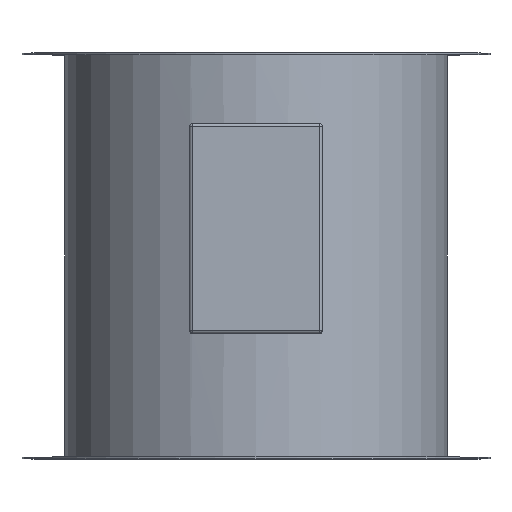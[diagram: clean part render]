
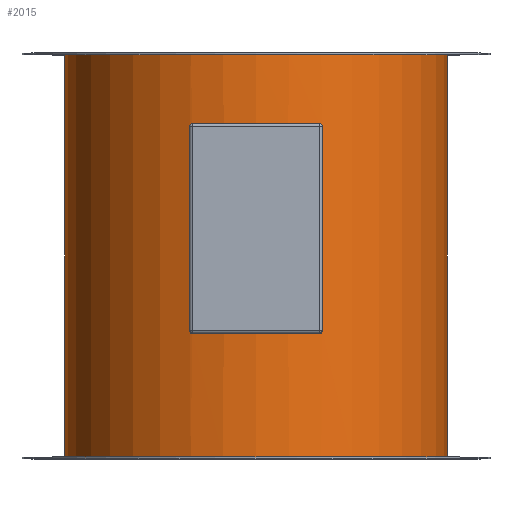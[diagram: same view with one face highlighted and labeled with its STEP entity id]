
A CAD part, top view. The second image highlights one B-rep face of the part: STEP entity #2015.
In plain terms, the highlighted cylindrical face has radius 141.25 mm (diameter 282.5 mm), a full revolution.
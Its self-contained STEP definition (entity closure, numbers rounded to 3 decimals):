
#19=FACE_BOUND('',#786,.T.);
#129=B_SPLINE_CURVE_WITH_KNOTS('',3,(#2786,#2787,#2788,#2789,#2790,#2791,
#2792,#2793,#2794,#2795),.UNSPECIFIED.,.F.,.F.,(4,2,2,2,4),(0.,0.075,
0.15,0.231,0.311),.UNSPECIFIED.);
#130=B_SPLINE_CURVE_WITH_KNOTS('',3,(#2824,#2825,#2826,#2827,#2828,#2829,
#2830,#2831,#2832,#2833),.UNSPECIFIED.,.F.,.F.,(4,2,2,2,4),(-0.311,
-0.232,-0.153,-0.076,0.),
 .UNSPECIFIED.);
#131=B_SPLINE_CURVE_WITH_KNOTS('',3,(#2839,#2840,#2841,#2842,#2843,#2844,
#2845,#2846,#2847,#2848),.UNSPECIFIED.,.F.,.F.,(4,2,2,2,4),(0.621,
0.697,0.774,0.853,0.932),
 .UNSPECIFIED.);
#132=B_SPLINE_CURVE_WITH_KNOTS('',3,(#2854,#2855,#2856,#2857,#2858,#2859,
#2860,#2861,#2862,#2863),.UNSPECIFIED.,.F.,.F.,(4,2,2,2,4),(0.31,
0.39,0.471,0.546,0.621),
 .UNSPECIFIED.);
#159=LINE('',#2867,#358);
#160=LINE('',#2872,#359);
#339=LINE('',#3431,#538);
#358=VECTOR('',#2284,10.);
#359=VECTOR('',#2293,10.);
#538=VECTOR('',#2740,140.);
#569=CYLINDRICAL_SURFACE('',#2203,141.25);
#673=FACE_OUTER_BOUND('',#785,.T.);
#785=EDGE_LOOP('',(#1842,#1843,#1844,#1845));
#786=EDGE_LOOP('',(#1846,#1847,#1848,#1849,#1850,#1851,#1852,#1853));
#841=CIRCLE('',#2068,141.25);
#842=CIRCLE('',#2072,141.25);
#889=CIRCLE('',#2204,141.25);
#890=CIRCLE('',#2205,141.25);
#901=VERTEX_POINT('',#2784);
#902=VERTEX_POINT('',#2785);
#909=VERTEX_POINT('',#2822);
#910=VERTEX_POINT('',#2823);
#911=VERTEX_POINT('',#2837);
#912=VERTEX_POINT('',#2838);
#913=VERTEX_POINT('',#2852);
#914=VERTEX_POINT('',#2853);
#1067=VERTEX_POINT('',#3428);
#1068=VERTEX_POINT('',#3430);
#1081=EDGE_CURVE('',#901,#902,#129,.F.);
#1096=EDGE_CURVE('',#909,#910,#130,.F.);
#1099=EDGE_CURVE('',#911,#912,#131,.F.);
#1102=EDGE_CURVE('',#913,#914,#132,.F.);
#1105=EDGE_CURVE('',#909,#902,#159,.T.);
#1106=EDGE_CURVE('',#901,#914,#841,.T.);
#1107=EDGE_CURVE('',#913,#912,#160,.T.);
#1108=EDGE_CURVE('',#911,#910,#842,.T.);
#1343=EDGE_CURVE('',#1067,#1067,#889,.T.);
#1344=EDGE_CURVE('',#1067,#1068,#339,.T.);
#1345=EDGE_CURVE('',#1068,#1068,#890,.F.);
#1842=ORIENTED_EDGE('',*,*,#1343,.T.);
#1843=ORIENTED_EDGE('',*,*,#1344,.T.);
#1844=ORIENTED_EDGE('',*,*,#1345,.T.);
#1845=ORIENTED_EDGE('',*,*,#1344,.F.);
#1846=ORIENTED_EDGE('',*,*,#1107,.T.);
#1847=ORIENTED_EDGE('',*,*,#1099,.F.);
#1848=ORIENTED_EDGE('',*,*,#1108,.T.);
#1849=ORIENTED_EDGE('',*,*,#1096,.F.);
#1850=ORIENTED_EDGE('',*,*,#1105,.T.);
#1851=ORIENTED_EDGE('',*,*,#1081,.F.);
#1852=ORIENTED_EDGE('',*,*,#1106,.T.);
#1853=ORIENTED_EDGE('',*,*,#1102,.F.);
#2015=ADVANCED_FACE('',(#673,#19),#569,.T.);
#2068=AXIS2_PLACEMENT_3D('',#2869,#2287,#2288);
#2072=AXIS2_PLACEMENT_3D('',#2874,#2296,#2297);
#2203=AXIS2_PLACEMENT_3D('',#3427,#2736,#2737);
#2204=AXIS2_PLACEMENT_3D('',#3429,#2738,#2739);
#2205=AXIS2_PLACEMENT_3D('',#3432,#2741,#2742);
#2284=DIRECTION('',(0.,1.,0.));
#2287=DIRECTION('center_axis',(0.,1.,0.));
#2288=DIRECTION('ref_axis',(1.,0.,0.));
#2293=DIRECTION('',(0.,-1.,0.));
#2296=DIRECTION('center_axis',(0.,-1.,0.));
#2297=DIRECTION('ref_axis',(1.,0.,0.));
#2736=DIRECTION('center_axis',(0.,1.,0.));
#2737=DIRECTION('ref_axis',(1.,0.,0.));
#2738=DIRECTION('center_axis',(0.,-1.,0.));
#2739=DIRECTION('ref_axis',(1.,0.,0.));
#2740=DIRECTION('',(0.,-1.,0.));
#2741=DIRECTION('center_axis',(0.,-1.,0.));
#2742=DIRECTION('ref_axis',(1.,0.,0.));
#2784=CARTESIAN_POINT('',(-47.,97.5,133.201));
#2785=CARTESIAN_POINT('',(-49.,95.5,132.479));
#2786=CARTESIAN_POINT('Ctrl Pts',(-49.,95.5,132.479));
#2787=CARTESIAN_POINT('Ctrl Pts',(-49.,95.75,132.479));
#2788=CARTESIAN_POINT('Ctrl Pts',(-48.95,96.016,132.497));
#2789=CARTESIAN_POINT('Ctrl Pts',(-48.75,96.503,132.571));
#2790=CARTESIAN_POINT('Ctrl Pts',(-48.601,96.723,132.626));
#2791=CARTESIAN_POINT('Ctrl Pts',(-48.25,97.083,132.754));
#2792=CARTESIAN_POINT('Ctrl Pts',(-48.021,97.241,132.837));
#2793=CARTESIAN_POINT('Ctrl Pts',(-47.522,97.449,133.016));
#2794=CARTESIAN_POINT('Ctrl Pts',(-47.252,97.5,133.112));
#2795=CARTESIAN_POINT('Ctrl Pts',(-47.,97.5,133.201));
#2822=CARTESIAN_POINT('',(-49.,-55.5,132.479));
#2823=CARTESIAN_POINT('',(-47.,-57.5,133.201));
#2824=CARTESIAN_POINT('Ctrl Pts',(-47.,-57.5,133.201));
#2825=CARTESIAN_POINT('Ctrl Pts',(-47.249,-57.5,133.114));
#2826=CARTESIAN_POINT('Ctrl Pts',(-47.515,-57.451,133.019));
#2827=CARTESIAN_POINT('Ctrl Pts',(-48.007,-57.248,132.842));
#2828=CARTESIAN_POINT('Ctrl Pts',(-48.234,-57.095,132.76));
#2829=CARTESIAN_POINT('Ctrl Pts',(-48.589,-56.74,132.63));
#2830=CARTESIAN_POINT('Ctrl Pts',(-48.743,-56.517,132.574));
#2831=CARTESIAN_POINT('Ctrl Pts',(-48.948,-56.025,132.498));
#2832=CARTESIAN_POINT('Ctrl Pts',(-49.,-55.755,132.479));
#2833=CARTESIAN_POINT('Ctrl Pts',(-49.,-55.5,132.479));
#2837=CARTESIAN_POINT('',(47.,-57.5,133.201));
#2838=CARTESIAN_POINT('',(49.,-55.5,132.479));
#2839=CARTESIAN_POINT('Ctrl Pts',(49.,-55.5,132.479));
#2840=CARTESIAN_POINT('Ctrl Pts',(49.,-55.755,132.479));
#2841=CARTESIAN_POINT('Ctrl Pts',(48.948,-56.025,132.498));
#2842=CARTESIAN_POINT('Ctrl Pts',(48.743,-56.517,132.574));
#2843=CARTESIAN_POINT('Ctrl Pts',(48.589,-56.74,132.63));
#2844=CARTESIAN_POINT('Ctrl Pts',(48.234,-57.095,132.76));
#2845=CARTESIAN_POINT('Ctrl Pts',(48.007,-57.248,132.842));
#2846=CARTESIAN_POINT('Ctrl Pts',(47.515,-57.451,133.019));
#2847=CARTESIAN_POINT('Ctrl Pts',(47.249,-57.5,133.114));
#2848=CARTESIAN_POINT('Ctrl Pts',(47.,-57.5,133.201));
#2852=CARTESIAN_POINT('',(49.,95.5,132.479));
#2853=CARTESIAN_POINT('',(47.,97.5,133.201));
#2854=CARTESIAN_POINT('Ctrl Pts',(47.,97.5,133.201));
#2855=CARTESIAN_POINT('Ctrl Pts',(47.252,97.5,133.112));
#2856=CARTESIAN_POINT('Ctrl Pts',(47.522,97.449,133.016));
#2857=CARTESIAN_POINT('Ctrl Pts',(48.021,97.241,132.837));
#2858=CARTESIAN_POINT('Ctrl Pts',(48.25,97.083,132.754));
#2859=CARTESIAN_POINT('Ctrl Pts',(48.601,96.723,132.626));
#2860=CARTESIAN_POINT('Ctrl Pts',(48.75,96.503,132.571));
#2861=CARTESIAN_POINT('Ctrl Pts',(48.95,96.016,132.497));
#2862=CARTESIAN_POINT('Ctrl Pts',(49.,95.75,132.479));
#2863=CARTESIAN_POINT('Ctrl Pts',(49.,95.5,132.479));
#2867=CARTESIAN_POINT('',(-49.,0.,132.479));
#2869=CARTESIAN_POINT('Origin',(0.,97.5,0.));
#2872=CARTESIAN_POINT('',(49.,0.,132.479));
#2874=CARTESIAN_POINT('Origin',(0.,-57.5,0.));
#3427=CARTESIAN_POINT('Origin',(0.,0.,0.));
#3428=CARTESIAN_POINT('',(-141.25,148.75,0.));
#3429=CARTESIAN_POINT('Origin',(0.,148.75,0.));
#3430=CARTESIAN_POINT('',(-141.25,-148.75,0.));
#3431=CARTESIAN_POINT('',(-141.25,0.,0.));
#3432=CARTESIAN_POINT('Origin',(0.,-148.75,0.));
